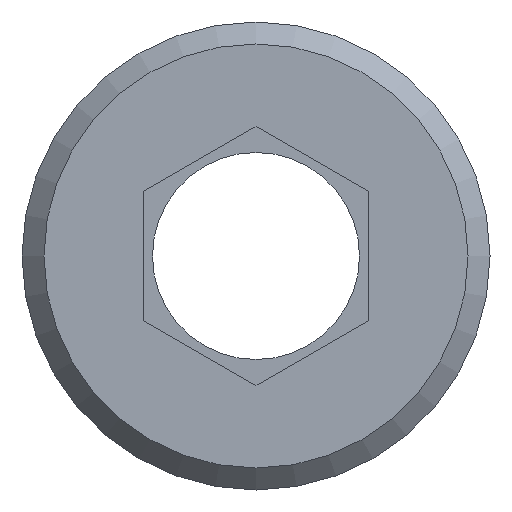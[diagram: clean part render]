
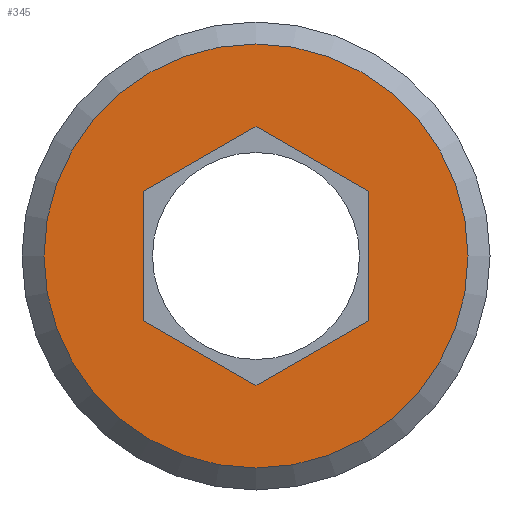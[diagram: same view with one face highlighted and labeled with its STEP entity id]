
A CAD part, front view. The second image highlights one B-rep face of the part: STEP entity #345.
In plain terms, the highlighted planar face has unit normal (0, -1, 0).
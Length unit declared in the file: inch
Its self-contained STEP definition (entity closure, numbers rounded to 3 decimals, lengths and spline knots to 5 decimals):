
#19=FACE_BOUND('',#87,.T.);
#39=CIRCLE('',#390,0.295);
#65=FACE_OUTER_BOUND('',#86,.T.);
#86=EDGE_LOOP('',(#285));
#87=EDGE_LOOP('',(#286,#287,#288,#289,#290,#291));
#95=LINE('',#524,#119);
#99=LINE('',#532,#123);
#102=LINE('',#538,#126);
#105=LINE('',#544,#129);
#108=LINE('',#550,#132);
#111=LINE('',#555,#135);
#119=VECTOR('',#412,0.3937);
#123=VECTOR('',#418,0.3937);
#126=VECTOR('',#423,0.3937);
#129=VECTOR('',#428,0.3937);
#132=VECTOR('',#433,0.3937);
#135=VECTOR('',#438,0.3937);
#143=VERTEX_POINT('',#522);
#144=VERTEX_POINT('',#523);
#147=VERTEX_POINT('',#531);
#149=VERTEX_POINT('',#537);
#151=VERTEX_POINT('',#543);
#153=VERTEX_POINT('',#549);
#166=VERTEX_POINT('',#588);
#177=EDGE_CURVE('',#143,#144,#95,.T.);
#181=EDGE_CURVE('',#147,#143,#99,.T.);
#184=EDGE_CURVE('',#149,#147,#102,.T.);
#187=EDGE_CURVE('',#151,#149,#105,.T.);
#190=EDGE_CURVE('',#153,#151,#108,.T.);
#193=EDGE_CURVE('',#144,#153,#111,.T.);
#209=EDGE_CURVE('',#166,#166,#39,.T.);
#285=ORIENTED_EDGE('',*,*,#209,.F.);
#286=ORIENTED_EDGE('',*,*,#190,.T.);
#287=ORIENTED_EDGE('',*,*,#187,.T.);
#288=ORIENTED_EDGE('',*,*,#184,.T.);
#289=ORIENTED_EDGE('',*,*,#181,.T.);
#290=ORIENTED_EDGE('',*,*,#177,.T.);
#291=ORIENTED_EDGE('',*,*,#193,.T.);
#329=PLANE('',#396);
#345=ADVANCED_FACE('',(#65,#19),#329,.T.);
#390=AXIS2_PLACEMENT_3D('',#589,#479,#480);
#396=AXIS2_PLACEMENT_3D('',#601,#493,#494);
#412=DIRECTION('',(-0.866,0.,-0.5));
#418=DIRECTION('',(0.,0.,-1.));
#423=DIRECTION('',(0.866,0.,-0.5));
#428=DIRECTION('',(0.866,0.,0.5));
#433=DIRECTION('',(0.,0.,1.));
#438=DIRECTION('',(-0.866,0.,0.5));
#479=DIRECTION('center_axis',(0.,1.,0.));
#480=DIRECTION('ref_axis',(0.,0.,1.));
#493=DIRECTION('center_axis',(0.,-1.,0.));
#494=DIRECTION('ref_axis',(0.,0.,-1.));
#522=CARTESIAN_POINT('',(0.156,0.,-0.09007));
#523=CARTESIAN_POINT('',(0.,0.,-0.18013));
#524=CARTESIAN_POINT('',(0.08323,0.,-0.13208));
#531=CARTESIAN_POINT('',(0.156,0.,0.09007));
#532=CARTESIAN_POINT('',(0.156,0.,-0.03297));
#537=CARTESIAN_POINT('',(0.,0.,0.18013));
#538=CARTESIAN_POINT('',(0.07277,0.,0.13812));
#543=CARTESIAN_POINT('',(-0.156,0.,0.09007));
#544=CARTESIAN_POINT('',(-0.15077,0.,0.09308));
#549=CARTESIAN_POINT('',(-0.156,0.,-0.09007));
#550=CARTESIAN_POINT('',(-0.156,0.,-0.12303));
#555=CARTESIAN_POINT('',(-0.00523,0.,-0.17712));
#588=CARTESIAN_POINT('',(0.,0.,-0.295));
#589=CARTESIAN_POINT('Origin',(0.,0.,0.));
#601=CARTESIAN_POINT('Origin',(0.,0.,-0.156));
